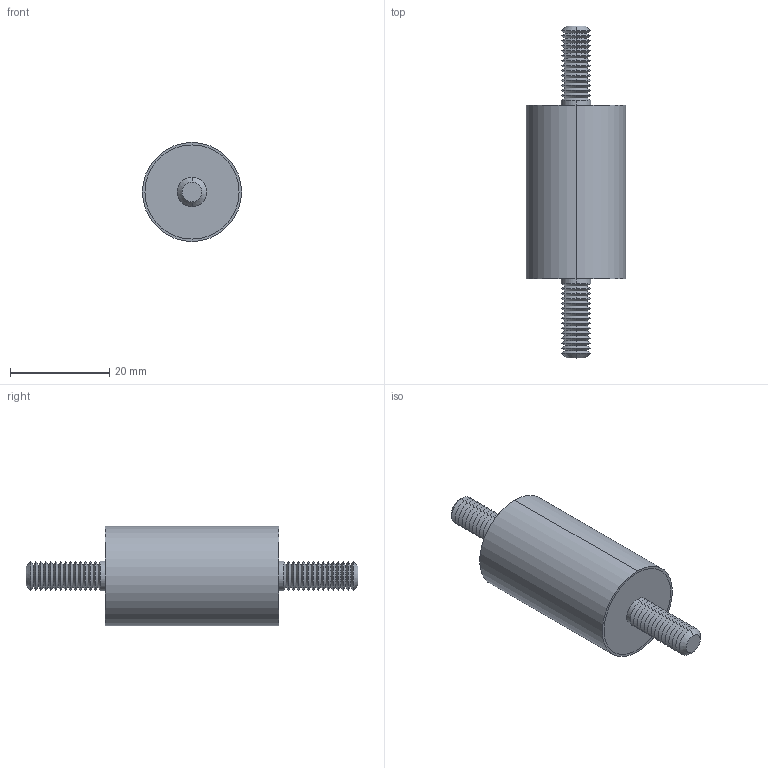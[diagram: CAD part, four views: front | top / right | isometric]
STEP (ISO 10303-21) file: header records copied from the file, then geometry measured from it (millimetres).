
FILE_DESCRIPTION (( 'STEP AP203' ), '1' );
FILE_NAME ('61040.W0251.step', '2019-09-24T22:31:32', ( '' ), ( '' ), 'SwSTEP 2.0', 'SolidWorks 2017', '' );
FILE_SCHEMA (( 'CONFIG_CONTROL_DESIGN' ));
Length unit declared in the file: millimetre
Products named in the file (4): Part2_61040.W0251; Part1_61040.W0251; 61040.W0251; Part3_61040.W0251
Assembly tree (3 placements, depth 2):
  61040.W0251
    Part1_61040.W0251
    Part2_61040.W0251
    Part3_61040.W0251
Bounding box: 20 x 67 x 20 mm (x, y, z)
Volume: 11677.1 mm3; surface area: 5273.6 mm2
Topology: 3 solids, 3 shells, 140 faces, 274 edges, 144 vertices
Faces by surface type: cone 116, cylinder 14, plane 10
Entity records: 3908 total; most frequent: DIRECTION 710, CARTESIAN_POINT 564, ORIENTED_EDGE 548, AXIS2_PLACEMENT_3D 290, EDGE_CURVE 274, CIRCLE 144, EDGE_LOOP 144, VERTEX_POINT 144
